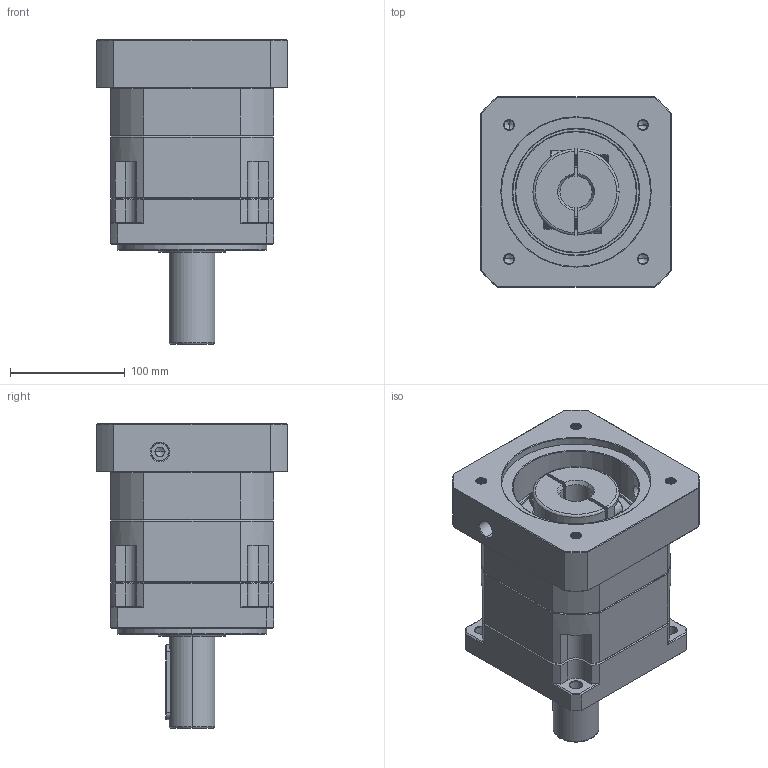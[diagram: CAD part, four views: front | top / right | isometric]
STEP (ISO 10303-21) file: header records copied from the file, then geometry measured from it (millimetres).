
FILE_DESCRIPTION (( 'STEP AP214' ), '1' );
FILE_NAME ('ZB142A-D40-L1-P2-28-130-165-M10.step', '2023-09-01T11:41:27', ( '' ), ( '' ), 'SwSTEP 2.0', 'SolidWorks 2016', '' );
FILE_SCHEMA (( 'AUTOMOTIVE_DESIGN' ));
Length unit declared in the file: millimetre
Products named in the file (1): ZB142A-D40-L1-P2-28-130-165-M10
Bounding box: 166 x 166 x 265.2 mm (x, y, z)
Volume: 3441968.3 mm3; surface area: 297161.7 mm2
Topology: 6 solids, 6 shells, 2318 faces, 6209 edges, 3998 vertices
Faces by surface type: plane 1102, cylinder 432, bspline 411, cone 351, torus 22
Entity records: 129349 total; most frequent: CARTESIAN_POINT 49212, ORIENTED_EDGE 12358, DIRECTION 9795, EDGE_CURVE 6179, VERTEX_POINT 3998, LINE 3903, VECTOR 3903, AXIS2_PLACEMENT_3D 2946
